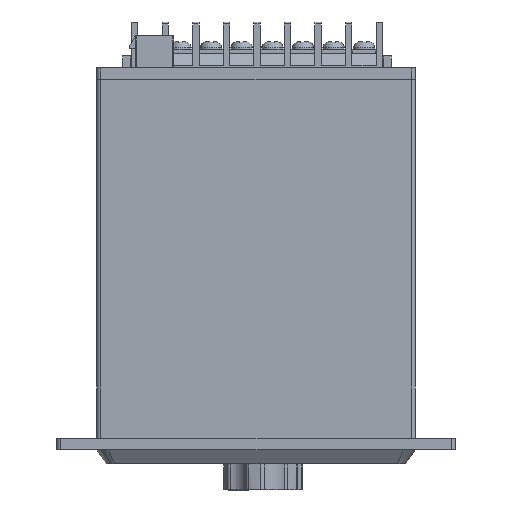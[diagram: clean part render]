
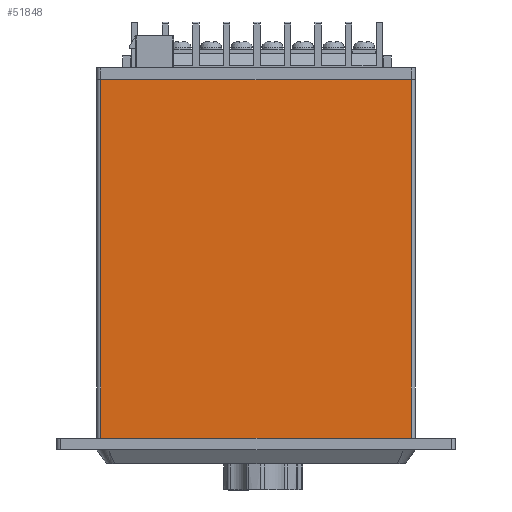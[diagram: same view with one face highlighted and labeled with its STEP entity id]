
A CAD part, left-side view. The second image highlights one B-rep face of the part: STEP entity #51848.
In plain terms, the highlighted planar face has unit normal (-1, 0, 0).
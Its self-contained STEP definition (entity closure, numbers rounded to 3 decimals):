
#7399=CARTESIAN_POINT('',(-25.75,-39.,90.0));
#7400=VERTEX_POINT('',#7399);
#7432=CARTESIAN_POINT('',(-25.75,39.0,90.0));
#7433=VERTEX_POINT('',#7432);
#7434=CARTESIAN_POINT('',(-25.75,39.0,90.0));
#7435=DIRECTION('',(0.0,-1.0,0.0));
#7436=VECTOR('',#7435,78.);
#7437=LINE('',#7434,#7436);
#7438=EDGE_CURVE('',#7433,#7400,#7437,.T.);
#11549=CARTESIAN_POINT('',(-25.75,-39.0,0.0));
#11550=VERTEX_POINT('',#11549);
#11558=CARTESIAN_POINT('',(-25.75,39.0,0.0));
#11559=VERTEX_POINT('',#11558);
#11560=CARTESIAN_POINT('',(-25.75,39.0,0.0));
#11561=DIRECTION('',(0.0,-1.0,0.0));
#11562=VECTOR('',#11561,78.0);
#11563=LINE('',#11560,#11562);
#11564=EDGE_CURVE('',#11559,#11550,#11563,.T.);
#51823=CARTESIAN_POINT('',(-25.75,-39.0,0.0));
#51824=DIRECTION('',(0.0,0.0,1.0));
#51825=VECTOR('',#51824,90.0);
#51826=LINE('',#51823,#51825);
#51827=EDGE_CURVE('',#11550,#7400,#51826,.T.);
#51832=CARTESIAN_POINT('',(-25.75,39.0,0.0));
#51833=DIRECTION('',(-1.0,0.0,0.0));
#51834=DIRECTION('',(0.0,0.0,1.0));
#51835=AXIS2_PLACEMENT_3D('',#51832,#51833,#51834);
#51836=PLANE('',#51835);
#51837=ORIENTED_EDGE('',*,*,#11564,.T.);
#51838=ORIENTED_EDGE('',*,*,#51827,.T.);
#51839=ORIENTED_EDGE('',*,*,#7438,.F.);
#51840=CARTESIAN_POINT('',(-25.75,39.0,0.0));
#51841=DIRECTION('',(0.0,0.0,1.0));
#51842=VECTOR('',#51841,90.0);
#51843=LINE('',#51840,#51842);
#51844=EDGE_CURVE('',#11559,#7433,#51843,.T.);
#51845=ORIENTED_EDGE('',*,*,#51844,.F.);
#51846=EDGE_LOOP('',(#51837,#51838,#51839,#51845));
#51847=FACE_OUTER_BOUND('',#51846,.T.);
#51848=ADVANCED_FACE('',(#51847),#51836,.T.);
